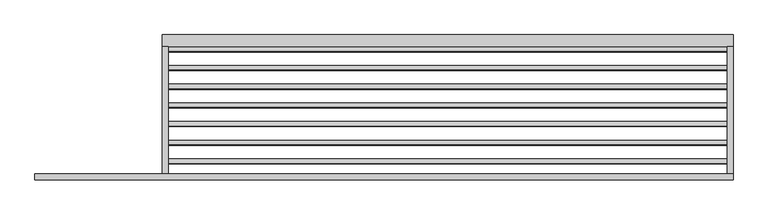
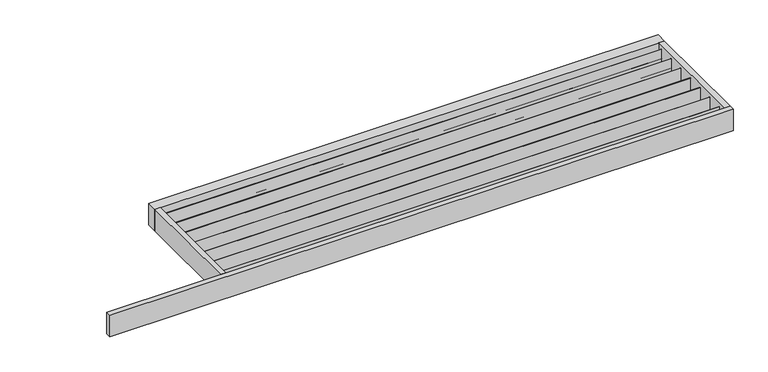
"""IFC4 building model written with IfcOpenShell, lengths in millimetres: proxy geometry, Renson_Amani_Canopy : Renson_Amani_Canopy."""

from ifc_helpers import new_model, si_unit, frame, origin, place, context, project, spatial, polyline, outline, extrude, source, transform, mapped, element, save


def generic_models_1ecb08e6(model_context):
    return source(origin(), model_context, "Body", "SweptSolid", [
        extrude(outline(polyline([(-731.0, -99.0), (-731.0, -150.0), (-761.0, -150.0), (-761.0, -27.0), (-759.0, -27.0), (-759.0, -92.0), (-731.0, -99.0)])), frame((35.0, 0.0, 0.0), z_axis=(1.0, 0.0, 0.0), x_axis=(0.0, 1.0, 0.0)), (0.0, 0.0, 1.0), 3285.0),
        extrude(outline(polyline([(-621.0, -99.0), (-621.0, -150.0), (-651.0, -150.0), (-651.0, -27.0), (-649.0, -27.0), (-649.0, -92.0), (-621.0, -99.0)])), frame((35.0, 0.0, 0.0), z_axis=(1.0, 0.0, 0.0), x_axis=(0.0, 1.0, 0.0)), (0.0, 0.0, 1.0), 3285.0),
        extrude(outline(polyline([(-511.0, -99.0), (-511.0, -150.0), (-541.0, -150.0), (-541.0, -27.0), (-539.0, -27.0), (-539.0, -92.0), (-511.0, -99.0)])), frame((35.0, 0.0, 0.0), z_axis=(1.0, 0.0, 0.0), x_axis=(0.0, 1.0, 0.0)), (0.0, 0.0, 1.0), 3285.0),
        extrude(outline(polyline([(-401.0, -99.0), (-401.0, -150.0), (-431.0, -150.0), (-431.0, -27.0), (-429.0, -27.0), (-429.0, -92.0), (-401.0, -99.0)])), frame((35.0, 0.0, 0.0), z_axis=(1.0, 0.0, 0.0), x_axis=(0.0, 1.0, 0.0)), (0.0, 0.0, 1.0), 3285.0),
        extrude(outline(polyline([(-291.0, -99.0), (-291.0, -150.0), (-321.0, -150.0), (-321.0, -27.0), (-319.0, -27.0), (-319.0, -92.0), (-291.0, -99.0)])), frame((35.0, 0.0, 0.0), z_axis=(1.0, 0.0, 0.0), x_axis=(0.0, 1.0, 0.0)), (0.0, 0.0, 1.0), 3285.0),
        extrude(outline(polyline([(-181.0, -99.0), (-181.0, -150.0), (-211.0, -150.0), (-211.0, -27.0), (-209.0, -27.0), (-209.0, -92.0), (-181.0, -99.0)])), frame((35.0, 0.0, 0.0), z_axis=(1.0, 0.0, 0.0), x_axis=(0.0, 1.0, 0.0)), (0.0, 0.0, 1.0), 3285.0),
        extrude(outline(polyline([(-71.0, -99.0), (-71.0, -150.0), (-101.0, -150.0), (-101.0, -27.0), (-99.0, -27.0), (-99.0, -92.0), (-71.0, -99.0)])), frame((35.0, 0.0, 0.0), z_axis=(1.0, 0.0, 0.0), x_axis=(0.0, 1.0, 0.0)), (0.0, 0.0, 1.0), 3285.0),
        extrude(outline(polyline([(3355.0, -855.0), (-750.0, -855.0), (-750.0, -820.0), (3355.0, -820.0), (3355.0, -855.0)])), frame((0.0, 0.0, -150.0), z_axis=(0.0, 0.0, 1.0), x_axis=(1.0, 0.0, 0.0)), (0.0, 0.0, 1.0), 150.0),
        extrude(outline(polyline([(3355.0, -70.0), (3355.0, -820.0), (3320.0, -820.0), (3320.0, -70.0), (3355.0, -70.0)])), frame((0.0, 0.0, -150.0), z_axis=(0.0, 0.0, 1.0), x_axis=(1.0, 0.0, 0.0)), (0.0, 0.0, 1.0), 150.0),
        extrude(outline(polyline([(35.0, -70.0), (35.0, -820.0), (0.0, -820.0), (0.0, -70.0), (35.0, -70.0)])), frame((0.0, 0.0, -150.0), z_axis=(0.0, 0.0, 1.0), x_axis=(1.0, 0.0, 0.0)), (0.0, 0.0, 1.0), 150.0),
        extrude(outline(polyline([(3355.0, -70.0), (0.0, -70.0), (0.0, 0.0), (3355.0, 0.0), (3355.0, -70.0)])), frame((0.0, 0.0, -150.0), z_axis=(0.0, 0.0, 1.0), x_axis=(1.0, 0.0, 0.0)), (0.0, 0.0, 1.0), 150.0),
    ])


if __name__ == "__main__":
    model = new_model("IFC4")
    model_context = context("Model", 3, world=origin())
    ifc_project = project(units=[si_unit("LENGTHUNIT", "METRE", prefix="MILLI")], contexts=[model_context])
    site = spatial("IfcSite", under=ifc_project)
    building = spatial("IfcBuilding", under=site)
    placement = place(None, origin())
    generic_models_shape = generic_models_1ecb08e6(model_context)
    element("IfcBuildingElementProxy", 1, Name="Renson_Amani_Canopy : Renson_Amani_Canopy", ObjectType="Renson_Amani_Canopy : Renson_Amani_Canopy", at=placement, inside=building, context=model_context, shape_type="MappedRepresentation", body=[
        mapped(generic_models_shape, transform((0.0, 0.0, 0.0), x_axis=(1.0, 0.0, 0.0), y_axis=(0.0, 1.0, 0.0), z_axis=(0.0, 0.0, 1.0))),
    ])
    save(model, "model.ifc")
